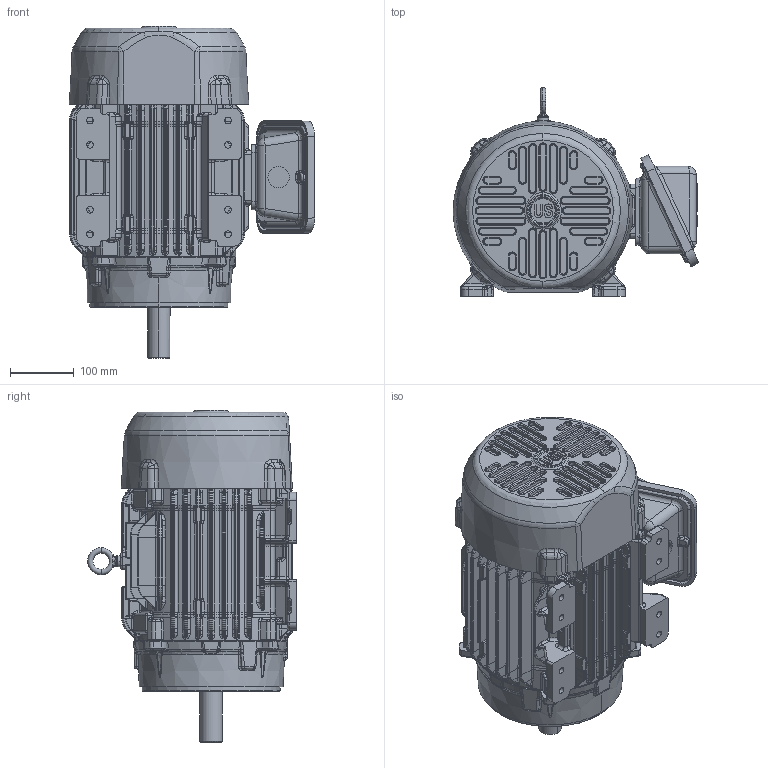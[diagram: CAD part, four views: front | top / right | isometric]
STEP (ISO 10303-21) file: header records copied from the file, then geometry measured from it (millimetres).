
FILE_DESCRIPTION((''),'2;1');
FILE_NAME('210_3D_ASM_ASM','2017-06-27T',('EMD2341'),('Nidec Motor Corporation'),'CREO PARAMETRIC BY PTC INC, 2016130','CREO PARAMETRIC BY PTC INC, 2016130','');
FILE_SCHEMA(('CONFIG_CONTROL_DESIGN'));
Length unit declared in the file: inch
Products named in the file (10): 210_FOOTED_FRAME; 210_CAST_FCVR; 0133167; 210_CAST_GSK_OBB; 210_CAST_NEMA; 210_CAST_GSK_OBC; 210_CAST_OBC; 210_FLNG; 210_CFACE_BRKT; 210_3D_ASM_ASM
Assembly tree (9 placements, depth 2):
  210_3D_ASM_ASM
    210_FOOTED_FRAME
    210_CAST_FCVR
    0133167
    210_CAST_GSK_OBB
    210_CAST_NEMA
    210_CAST_GSK_OBC
    210_CAST_OBC
    210_FLNG
    210_CFACE_BRKT
Bounding box: 384.48 x 326.64 x 519.43 mm (x, y, z)
Volume: 23064230.3 mm3; surface area: 1211060.1 mm2
Topology: 9 solids, 9 shells, 4817 faces, 11061 edges, 6311 vertices
Faces by surface type: bspline 2100, cylinder 996, plane 806, torus 365, extrusion 298, sphere 130, cone 122
Entity records: 225605 total; most frequent: CARTESIAN_POINT 131734, ORIENTED_EDGE 22106, DIRECTION 15588, EDGE_CURVE 11053, VERTEX_POINT 6311, AXIS2_PLACEMENT_3D 6046, EDGE_LOOP 4898, FACE_OUTER_BOUND 4817
